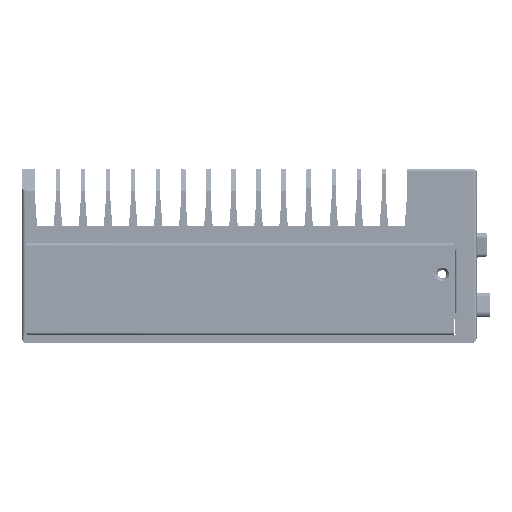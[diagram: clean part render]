
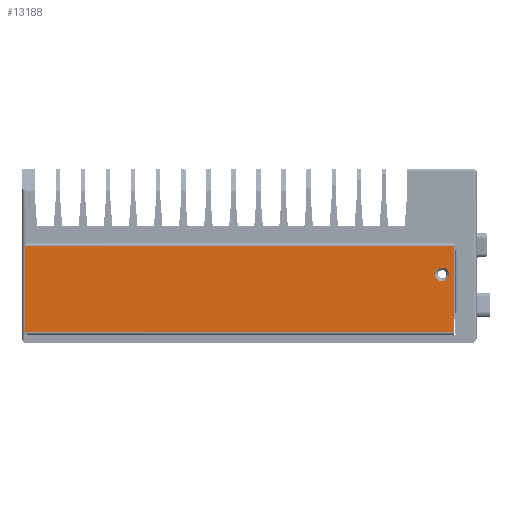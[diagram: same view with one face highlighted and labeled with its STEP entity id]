
A CAD part, left-side view. The second image highlights one B-rep face of the part: STEP entity #13188.
In plain terms, the highlighted planar face has unit normal (-1, 0, 0) as drawn and (1, 0, 0) by its records, which use the part's own axes.
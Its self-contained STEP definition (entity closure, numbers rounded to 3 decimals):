
#13135 = VERTEX_POINT('',#13136);
#13136 = CARTESIAN_POINT('',(118.,-1.1,16.75));
#13168 = VERTEX_POINT('',#13169);
#13169 = CARTESIAN_POINT('',(118.,-1.1,-16.75));
#13178 = EDGE_CURVE('',#13168,#13135,#13179,.T.);
#13179 = LINE('',#13180,#13181);
#13180 = CARTESIAN_POINT('',(118.,-1.1,-16.75));
#13181 = VECTOR('',#13182,1.);
#13182 = DIRECTION('',(0.,0.,1.));
#13188 = ADVANCED_FACE('',(#13189,#13246),#13284,.T.);
#13189 = FACE_BOUND('',#13190,.F.);
#13190 = EDGE_LOOP('',(#13191,#13199,#13207,#13215,#13223,#13231,#13239,
    #13245));
#13191 = ORIENTED_EDGE('',*,*,#13192,.T.);
#13192 = EDGE_CURVE('',#13168,#13193,#13195,.T.);
#13193 = VERTEX_POINT('',#13194);
#13194 = CARTESIAN_POINT('',(118.,-1.2,-16.75));
#13195 = LINE('',#13196,#13197);
#13196 = CARTESIAN_POINT('',(118.,-1.1,-16.75));
#13197 = VECTOR('',#13198,1.);
#13198 = DIRECTION('',(0.,-1.,0.));
#13199 = ORIENTED_EDGE('',*,*,#13200,.T.);
#13200 = EDGE_CURVE('',#13193,#13201,#13203,.T.);
#13201 = VERTEX_POINT('',#13202);
#13202 = CARTESIAN_POINT('',(118.,-1.2,-15.65));
#13203 = LINE('',#13204,#13205);
#13204 = CARTESIAN_POINT('',(118.,-1.2,-16.75));
#13205 = VECTOR('',#13206,1.);
#13206 = DIRECTION('',(0.,0.,1.));
#13207 = ORIENTED_EDGE('',*,*,#13208,.F.);
#13208 = EDGE_CURVE('',#13209,#13201,#13211,.T.);
#13209 = VERTEX_POINT('',#13210);
#13210 = CARTESIAN_POINT('',(118.,-156.9,-15.65));
#13211 = LINE('',#13212,#13213);
#13212 = CARTESIAN_POINT('',(118.,-156.9,-15.65));
#13213 = VECTOR('',#13214,1.);
#13214 = DIRECTION('',(0.,1.,0.));
#13215 = ORIENTED_EDGE('',*,*,#13216,.T.);
#13216 = EDGE_CURVE('',#13209,#13217,#13219,.T.);
#13217 = VERTEX_POINT('',#13218);
#13218 = CARTESIAN_POINT('',(118.,-156.9,15.65));
#13219 = LINE('',#13220,#13221);
#13220 = CARTESIAN_POINT('',(118.,-156.9,-15.65));
#13221 = VECTOR('',#13222,1.);
#13222 = DIRECTION('',(0.,0.,1.));
#13223 = ORIENTED_EDGE('',*,*,#13224,.F.);
#13224 = EDGE_CURVE('',#13225,#13217,#13227,.T.);
#13225 = VERTEX_POINT('',#13226);
#13226 = CARTESIAN_POINT('',(118.,-1.2,15.65));
#13227 = LINE('',#13228,#13229);
#13228 = CARTESIAN_POINT('',(118.,-1.2,15.65));
#13229 = VECTOR('',#13230,1.);
#13230 = DIRECTION('',(0.,-1.,0.));
#13231 = ORIENTED_EDGE('',*,*,#13232,.F.);
#13232 = EDGE_CURVE('',#13233,#13225,#13235,.T.);
#13233 = VERTEX_POINT('',#13234);
#13234 = CARTESIAN_POINT('',(118.,-1.2,16.75));
#13235 = LINE('',#13236,#13237);
#13236 = CARTESIAN_POINT('',(118.,-1.2,16.75));
#13237 = VECTOR('',#13238,1.);
#13238 = DIRECTION('',(0.,0.,-1.));
#13239 = ORIENTED_EDGE('',*,*,#13240,.T.);
#13240 = EDGE_CURVE('',#13233,#13135,#13241,.T.);
#13241 = LINE('',#13242,#13243);
#13242 = CARTESIAN_POINT('',(118.,-1.2,16.75));
#13243 = VECTOR('',#13244,1.);
#13244 = DIRECTION('',(0.,1.,0.));
#13245 = ORIENTED_EDGE('',*,*,#13178,.F.);
#13246 = FACE_BOUND('',#13247,.F.);
#13247 = EDGE_LOOP('',(#13248,#13259,#13268,#13277));
#13248 = ORIENTED_EDGE('',*,*,#13249,.T.);
#13249 = EDGE_CURVE('',#13250,#13252,#13254,.T.);
#13250 = VERTEX_POINT('',#13251);
#13251 = CARTESIAN_POINT('',(118.,-154.95,-5.35));
#13252 = VERTEX_POINT('',#13253);
#13253 = CARTESIAN_POINT('',(118.,-152.5,-7.8));
#13254 = CIRCLE('',#13255,2.45);
#13255 = AXIS2_PLACEMENT_3D('',#13256,#13257,#13258);
#13256 = CARTESIAN_POINT('',(118.,-152.5,-5.35));
#13257 = DIRECTION('',(1.,0.,0.));
#13258 = DIRECTION('',(0.,-1.,0.));
#13259 = ORIENTED_EDGE('',*,*,#13260,.T.);
#13260 = EDGE_CURVE('',#13252,#13261,#13263,.T.);
#13261 = VERTEX_POINT('',#13262);
#13262 = CARTESIAN_POINT('',(118.,-150.05,-5.35));
#13263 = CIRCLE('',#13264,2.45);
#13264 = AXIS2_PLACEMENT_3D('',#13265,#13266,#13267);
#13265 = CARTESIAN_POINT('',(118.,-152.5,-5.35));
#13266 = DIRECTION('',(1.,0.,0.));
#13267 = DIRECTION('',(0.,0.,-1.));
#13268 = ORIENTED_EDGE('',*,*,#13269,.T.);
#13269 = EDGE_CURVE('',#13261,#13270,#13272,.T.);
#13270 = VERTEX_POINT('',#13271);
#13271 = CARTESIAN_POINT('',(118.,-152.5,-2.9));
#13272 = CIRCLE('',#13273,2.45);
#13273 = AXIS2_PLACEMENT_3D('',#13274,#13275,#13276);
#13274 = CARTESIAN_POINT('',(118.,-152.5,-5.35));
#13275 = DIRECTION('',(1.,0.,0.));
#13276 = DIRECTION('',(-0.,1.,0.));
#13277 = ORIENTED_EDGE('',*,*,#13278,.T.);
#13278 = EDGE_CURVE('',#13270,#13250,#13279,.T.);
#13279 = CIRCLE('',#13280,2.45);
#13280 = AXIS2_PLACEMENT_3D('',#13281,#13282,#13283);
#13281 = CARTESIAN_POINT('',(118.,-152.5,-5.35));
#13282 = DIRECTION('',(1.,0.,-0.));
#13283 = DIRECTION('',(0.,0.,1.));
#13284 = PLANE('',#13285);
#13285 = AXIS2_PLACEMENT_3D('',#13286,#13287,#13288);
#13286 = CARTESIAN_POINT('',(118.,0.,8.79));
#13287 = DIRECTION('',(1.,0.,0.));
#13288 = DIRECTION('',(0.,0.,-1.));
